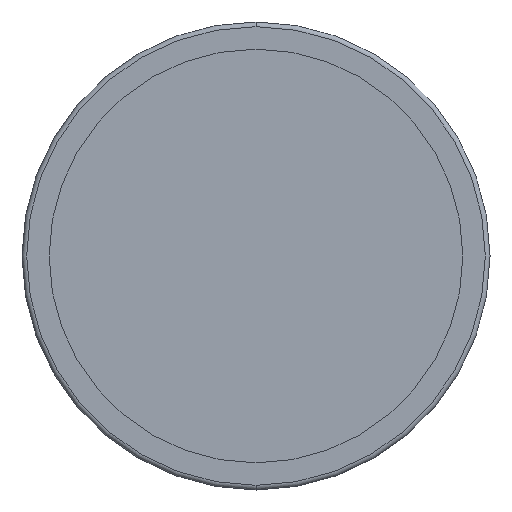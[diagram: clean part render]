
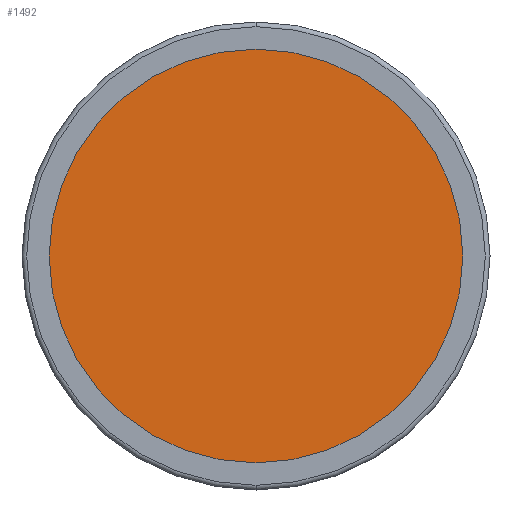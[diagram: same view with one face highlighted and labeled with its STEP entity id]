
A CAD part, front view. The second image highlights one B-rep face of the part: STEP entity #1492.
In plain terms, the highlighted planar face has unit normal (0, -1, 0).
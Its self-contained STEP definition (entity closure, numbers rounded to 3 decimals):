
#491 = EDGE_CURVE ( 'NONE', #2021, #1042, #701, .T. ) ;
#701 = CIRCLE ( 'NONE', #1225, 43.75 ) ;
#739 = PLANE ( 'NONE',  #2338 ) ;
#757 = DIRECTION ( 'NONE',  ( 0., -1., 0. ) ) ;
#770 = CARTESIAN_POINT ( 'NONE',  ( 0., -3., 43.75 ) ) ;
#1042 = VERTEX_POINT ( 'NONE', #770 ) ;
#1102 = ORIENTED_EDGE ( 'NONE', *, *, #1736, .F. ) ;
#1185 = CIRCLE ( 'NONE', #2054, 43.75 ) ;
#1225 = AXIS2_PLACEMENT_3D ( 'NONE', #1567, #2313, #1392 ) ;
#1231 = DIRECTION ( 'NONE',  ( 0., 1., 0. ) ) ;
#1253 = ORIENTED_EDGE ( 'NONE', *, *, #491, .F. ) ;
#1392 = DIRECTION ( 'NONE',  ( 0., 0., 1. ) ) ;
#1492 = ADVANCED_FACE ( 'NONE', ( #2401 ), #739, .T. ) ;
#1567 = CARTESIAN_POINT ( 'NONE',  ( 0., -3., 0. ) ) ;
#1600 = DIRECTION ( 'NONE',  ( 0., 0., 1. ) ) ;
#1713 = DIRECTION ( 'NONE',  ( 0., 0., -1. ) ) ;
#1736 = EDGE_CURVE ( 'NONE', #1042, #2021, #1185, .T. ) ;
#1895 = CARTESIAN_POINT ( 'NONE',  ( -43.75, -3., 0. ) ) ;
#2021 = VERTEX_POINT ( 'NONE', #2085 ) ;
#2054 = AXIS2_PLACEMENT_3D ( 'NONE', #2151, #1231, #1600 ) ;
#2085 = CARTESIAN_POINT ( 'NONE',  ( 0., -3., -43.75 ) ) ;
#2151 = CARTESIAN_POINT ( 'NONE',  ( 0., -3., 0. ) ) ;
#2305 = EDGE_LOOP ( 'NONE', ( #1102, #1253 ) ) ;
#2313 = DIRECTION ( 'NONE',  ( 0., 1., 0. ) ) ;
#2338 = AXIS2_PLACEMENT_3D ( 'NONE', #1895, #757, #1713 ) ;
#2401 = FACE_OUTER_BOUND ( 'NONE', #2305, .T. ) ;
